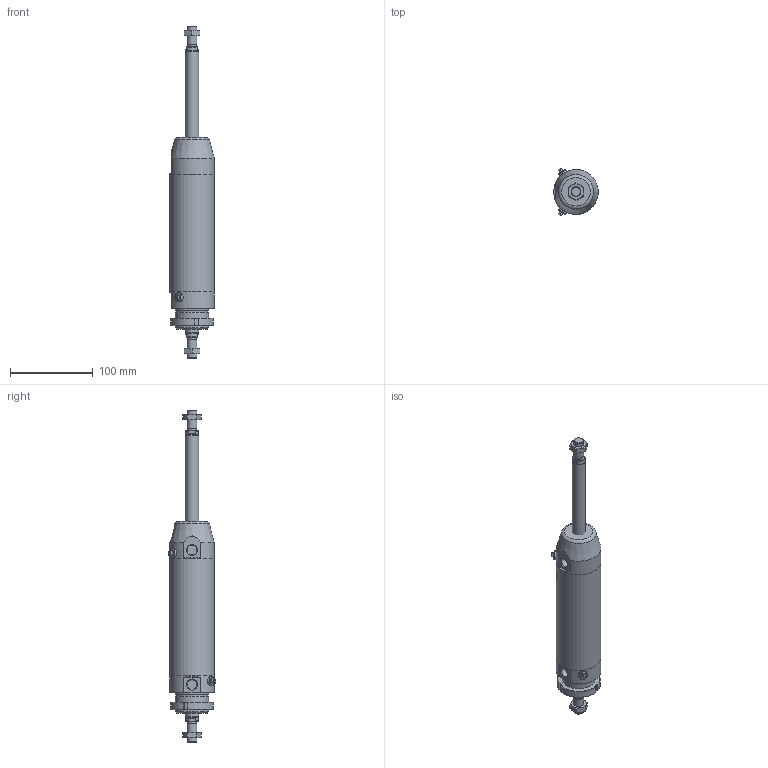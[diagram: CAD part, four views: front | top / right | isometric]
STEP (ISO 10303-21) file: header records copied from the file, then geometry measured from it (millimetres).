
FILE_DESCRIPTION(/* description */ (''),/* implementation_level */ '2;1');
FILE_NAME(/* name */ 'I:\Area Tecnica\Documenti\A-Manieri\_Inventor\12X\12X#T_###_####_#_#\12XDT_050_0100_#_#.stp',/* time_stamp */ '2015-05-13T09:08:59+02:00',/* author */ ('maniean1'),/* organization */ ('Pneumax S.p.A.'),/* preprocessor_version */ 'ST-DEVELOPER v15.2',/* originating_system */ 'Autodesk Inventor 2014',/* authorisation */ '');
FILE_SCHEMA (('AUTOMOTIVE_DESIGN { 1 0 10303 214 3 1 1 }'));
Length unit declared in the file: millimetre
Products named in the file (7): C1250_619-0100; 12X50_606; SP12X50_0100; 12X_50_11; 12X50_614; G12X_050_05; 12XDT_050_0100_#_#
Bounding box: 54 x 57.75 x 402 mm (x, y, z)
Volume: 357352.9 mm3; surface area: 107443.9 mm2
Topology: 7 solids, 7 shells, 125 faces, 280 edges, 180 vertices
Faces by surface type: plane 66, cylinder 30, cone 26, torus 3
Full cylindrical faces by diameter (mm): 5 x2, 10.2 x2, 11 x2, 11.4 x2, 12 x4, 14 x2, 15.6 x2, 16 x2, 38.2 x1, 40 x3, 50 x2, 54 x3
Entity records: 3058 total; most frequent: CARTESIAN_POINT 614, DIRECTION 513, ORIENTED_EDGE 402, AXIS2_PLACEMENT_3D 219, EDGE_CURVE 201, EDGE_LOOP 178, VERTEX_POINT 153, ADVANCED_FACE 114
